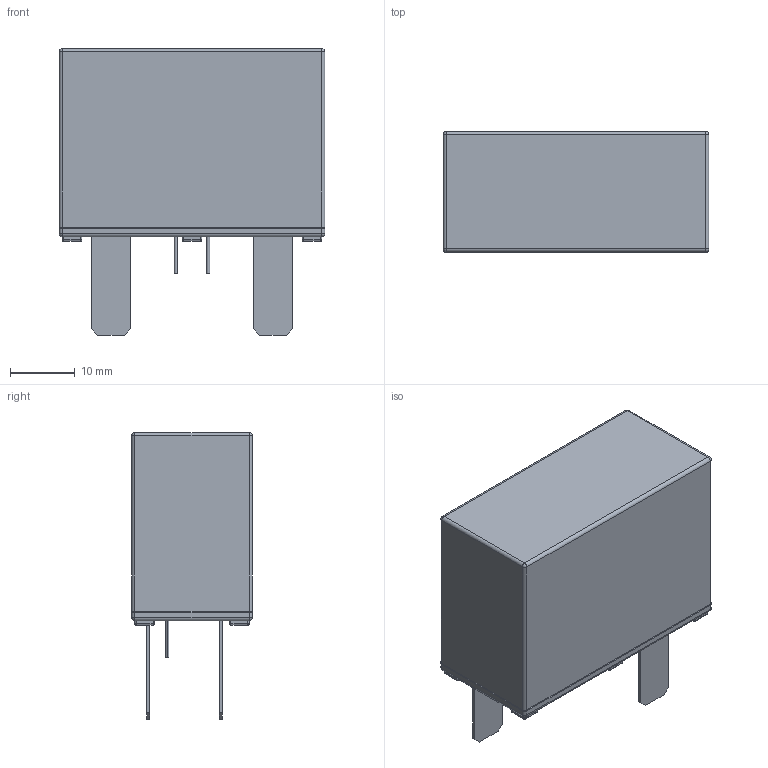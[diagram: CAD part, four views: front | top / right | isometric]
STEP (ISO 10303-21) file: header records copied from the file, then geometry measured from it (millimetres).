
FILE_DESCRIPTION((''),'2;1');
FILE_NAME('TFMOV20K-18-20200619','2020-06-24T',('set'),(''),'PRO/ENGINEER BY PARAMETRIC TECHNOLOGY CORPORATION, 2012310','PRO/ENGINEER BY PARAMETRIC TECHNOLOGY CORPORATION, 2012310','');
FILE_SCHEMA(('CONFIG_CONTROL_DESIGN','SHAPE_APPEARANCE_LAYERS_GROUPS'));
Length unit declared in the file: millimetre
Products named in the file (1): TFMOV20K-18-20200619
Bounding box: 41 x 18.6 x 44.2 mm (x, y, z)
Volume: 22064.6 mm3; surface area: 6374.9 mm2
Topology: 1 solids, 6 shells, 275 faces, 636 edges, 379 vertices
Faces by surface type: plane 125, cylinder 103, sphere 36, torus 8, bspline 3
Entity records: 9711 total; most frequent: CARTESIAN_POINT 1413, DIRECTION 1376, ORIENTED_EDGE 1272, PRESENTATION_STYLE_ASSIGNMENT 637, STYLED_ITEM 637, CURVE_STYLE 636, EDGE_CURVE 636, AXIS2_PLACEMENT_3D 484
